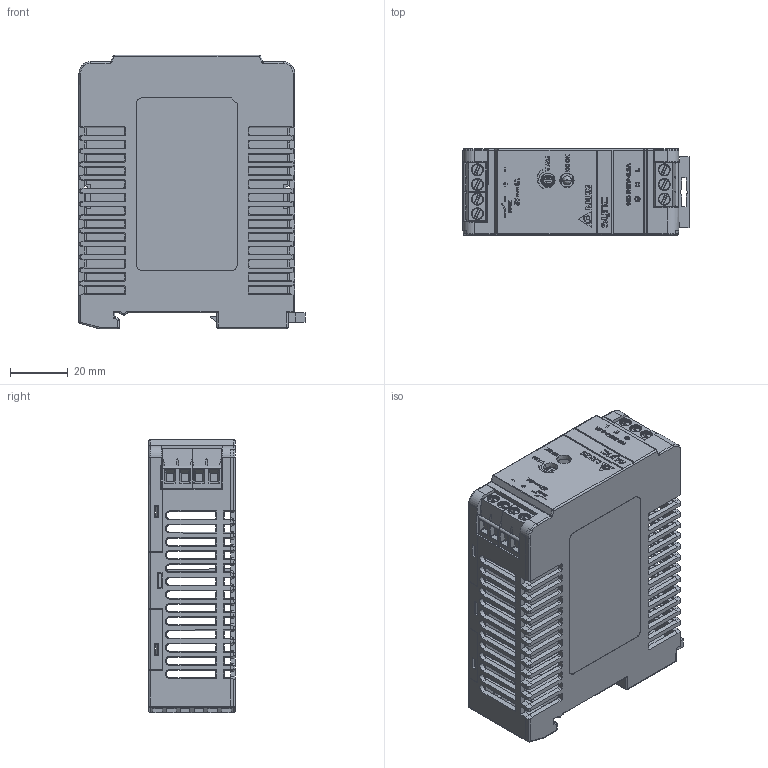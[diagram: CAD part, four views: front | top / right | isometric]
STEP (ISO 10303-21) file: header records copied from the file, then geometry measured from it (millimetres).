
FILE_DESCRIPTION((''),'2;1');
FILE_NAME('PD00-DRS-5V50W1AR_ASM','2018-09-19T',('pattrapol.seng'),(''),'PRO/ENGINEER BY PARAMETRIC TECHNOLOGY CORPORATION, 2010180','PRO/ENGINEER BY PARAMETRIC TECHNOLOGY CORPORATION, 2010180','');
FILE_SCHEMA(('CONFIG_CONTROL_DESIGN','SHAPE_APPEARANCE_LAYERS_GROUPS'));
Products named in the file (17): MAINBOARD_50W; DC_BOARD_50W; MB310-508M03Y_INPUT; MB310-508M02Y_OUTPUT_50W; MB310-508M04Y_ASM; 307655086G; 307655076G; ASSY_DCT-XXXX_ASM; EE_LED_50W; EE_VR-50W; 307022146G; 307022136G; ASSY_MAINBOARD_50W_ASM; 3300026TPS00; 3471801700_CLIP-BOM; 5V_50W_AR; PD00-DRS-5V50W1AR_ASM
Assembly tree (17 placements, depth 5):
  PD00-DRS-5V50W1AR_ASM
    ASSY_MAINBOARD_50W_ASM
      MAINBOARD_50W
      ASSY_DCT-XXXX_ASM
        DC_BOARD_50W
        MB310-508M03Y_INPUT
        MB310-508M04Y_ASM
          MB310-508M02Y_OUTPUT_50W  x2
        307655086G
        307655076G
      EE_LED_50W
      EE_VR-50W
      307022146G
      307022136G
    3300026TPS00
    3471801700_CLIP-BOM
    5V_50W_AR
Bounding box: 78.6 x 30 x 95.03 mm (x, y, z)
Volume: 49461.6 mm3; surface area: 70035.5 mm2
Topology: 14 solids, 17 shells, 6018 faces, 14456 edges, 8605 vertices
Faces by surface type: plane 2513, cylinder 1864, sphere 599, torus 486, extrusion 245, bspline 182, cone 129
Entity records: 187686 total; most frequent: CARTESIAN_POINT 41155, ORIENTED_EDGE 27146, DIRECTION 26931, EDGE_CURVE 13573, AXIS2_PLACEMENT_3D 9103, VECTOR 8725, LINE 8482, VERTEX_POINT 8104
